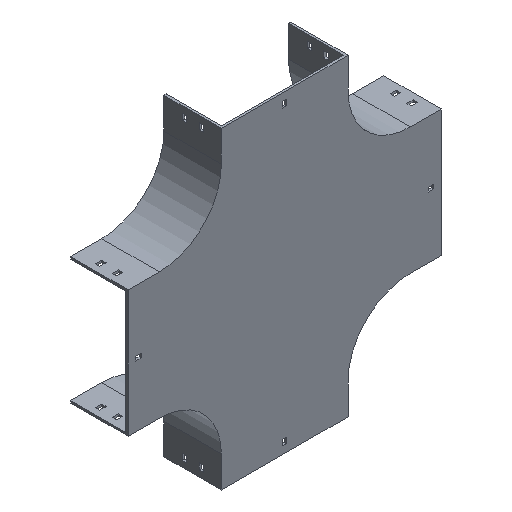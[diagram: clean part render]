
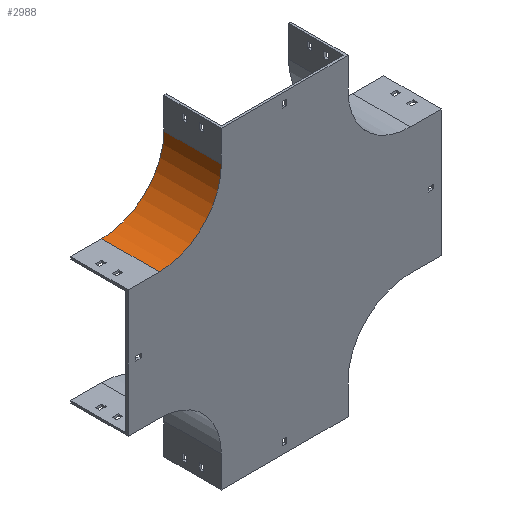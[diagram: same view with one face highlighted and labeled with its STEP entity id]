
A CAD part, isometric view. The second image highlights one B-rep face of the part: STEP entity #2988.
In plain terms, the highlighted cylindrical face has radius 100 mm (diameter 200 mm), a partial arc.
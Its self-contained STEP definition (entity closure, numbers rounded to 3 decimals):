
#126 = ORIENTED_EDGE ( 'NONE', *, *, #1921, .T. ) ;
#168 = DIRECTION ( 'NONE',  ( 0., -1., 0. ) ) ;
#272 = CARTESIAN_POINT ( 'NONE',  ( -404., 92.5, 0. ) ) ;
#468 = DIRECTION ( 'NONE',  ( 0., 0., 1. ) ) ;
#669 = CARTESIAN_POINT ( 'NONE',  ( -404., 92.5, -100. ) ) ;
#725 = EDGE_LOOP ( 'NONE', ( #1470, #3412, #2148, #126 ) ) ;
#737 = AXIS2_PLACEMENT_3D ( 'NONE', #2005, #1538, #1200 ) ;
#768 = CARTESIAN_POINT ( 'NONE',  ( -304., 92.5, 0. ) ) ;
#797 = VECTOR ( 'NONE', #2765, 1000. ) ;
#866 = CARTESIAN_POINT ( 'NONE',  ( -304., 92.5, 0. ) ) ;
#1024 = EDGE_CURVE ( 'NONE', #2081, #2421, #2770, .T. ) ;
#1167 = DIRECTION ( 'NONE',  ( 0., -1., 0. ) ) ;
#1200 = DIRECTION ( 'NONE',  ( 0., 0., -1. ) ) ;
#1212 = EDGE_CURVE ( 'NONE', #1397, #2627, #1849, .T. ) ;
#1397 = VERTEX_POINT ( 'NONE', #1755 ) ;
#1431 = VECTOR ( 'NONE', #1666, 1000. ) ;
#1470 = ORIENTED_EDGE ( 'NONE', *, *, #1212, .T. ) ;
#1538 = DIRECTION ( 'NONE',  ( 0., -1., 0. ) ) ;
#1666 = DIRECTION ( 'NONE',  ( 0., -1., 0. ) ) ;
#1668 = CARTESIAN_POINT ( 'NONE',  ( -404., 0., 0. ) ) ;
#1755 = CARTESIAN_POINT ( 'NONE',  ( -404., 0., -100. ) ) ;
#1849 = CIRCLE ( 'NONE', #2835, 100. ) ;
#1921 = EDGE_CURVE ( 'NONE', #2081, #1397, #2750, .T. ) ;
#2005 = CARTESIAN_POINT ( 'NONE',  ( -404., 92.5, 0. ) ) ;
#2081 = VERTEX_POINT ( 'NONE', #3786 ) ;
#2148 = ORIENTED_EDGE ( 'NONE', *, *, #1024, .F. ) ;
#2421 = VERTEX_POINT ( 'NONE', #866 ) ;
#2593 = FACE_OUTER_BOUND ( 'NONE', #725, .T. ) ;
#2604 = AXIS2_PLACEMENT_3D ( 'NONE', #272, #1167, #3805 ) ;
#2627 = VERTEX_POINT ( 'NONE', #3457 ) ;
#2681 = CYLINDRICAL_SURFACE ( 'NONE', #737, 100. ) ;
#2750 = LINE ( 'NONE', #669, #797 ) ;
#2765 = DIRECTION ( 'NONE',  ( 0., -1., 0. ) ) ;
#2770 = CIRCLE ( 'NONE', #2604, 100. ) ;
#2835 = AXIS2_PLACEMENT_3D ( 'NONE', #1668, #168, #468 ) ;
#2988 = ADVANCED_FACE ( 'NONE', ( #2593 ), #2681, .F. ) ;
#3406 = LINE ( 'NONE', #768, #1431 ) ;
#3412 = ORIENTED_EDGE ( 'NONE', *, *, #3656, .F. ) ;
#3457 = CARTESIAN_POINT ( 'NONE',  ( -304., 0., 0. ) ) ;
#3656 = EDGE_CURVE ( 'NONE', #2421, #2627, #3406, .T. ) ;
#3786 = CARTESIAN_POINT ( 'NONE',  ( -404., 92.5, -100. ) ) ;
#3805 = DIRECTION ( 'NONE',  ( 0., 0., 1. ) ) ;
